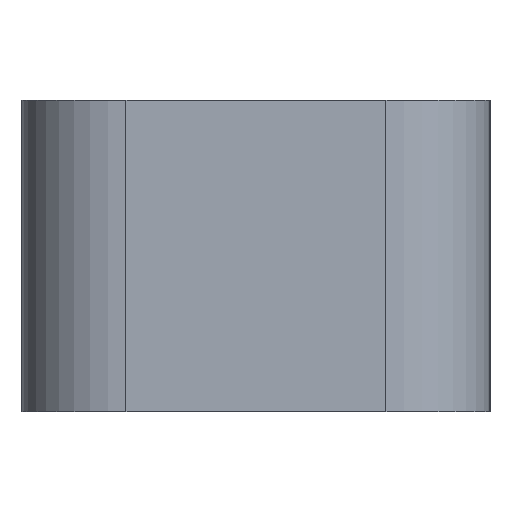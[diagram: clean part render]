
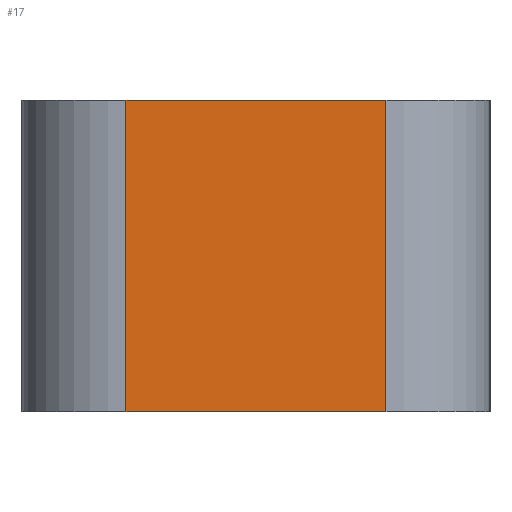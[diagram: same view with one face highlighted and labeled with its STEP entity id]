
A CAD part, left-side view. The second image highlights one B-rep face of the part: STEP entity #17.
In plain terms, the highlighted planar face has unit normal (-1, 0, 0).
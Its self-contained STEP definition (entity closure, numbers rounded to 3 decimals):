
#17 = ADVANCED_FACE('',(#18),#32,.F.);
#18 = FACE_BOUND('',#19,.F.);
#19 = EDGE_LOOP('',(#20,#55,#83,#111));
#20 = ORIENTED_EDGE('',*,*,#21,.F.);
#21 = EDGE_CURVE('',#22,#24,#26,.T.);
#22 = VERTEX_POINT('',#23);
#23 = CARTESIAN_POINT('',(-80.,-5.,12.));
#24 = VERTEX_POINT('',#25);
#25 = CARTESIAN_POINT('',(-80.,5.,12.));
#26 = SURFACE_CURVE('',#27,(#31,#43),.PCURVE_S1.);
#27 = LINE('',#28,#29);
#28 = CARTESIAN_POINT('',(-80.,-9.,12.));
#29 = VECTOR('',#30,1.);
#30 = DIRECTION('',(0.,1.,0.));
#31 = PCURVE('',#32,#37);
#32 = PLANE('',#33);
#33 = AXIS2_PLACEMENT_3D('',#34,#35,#36);
#34 = CARTESIAN_POINT('',(-80.,-9.,0.));
#35 = DIRECTION('',(1.,0.,0.));
#36 = DIRECTION('',(0.,0.,1.));
#37 = DEFINITIONAL_REPRESENTATION('',(#38),#42);
#38 = LINE('',#39,#40);
#39 = CARTESIAN_POINT('',(12.,0.));
#40 = VECTOR('',#41,1.);
#41 = DIRECTION('',(0.,-1.));
#42 = ( GEOMETRIC_REPRESENTATION_CONTEXT(2) 
PARAMETRIC_REPRESENTATION_CONTEXT() REPRESENTATION_CONTEXT('2D SPACE',''
  ) );
#43 = PCURVE('',#44,#49);
#44 = PLANE('',#45);
#45 = AXIS2_PLACEMENT_3D('',#46,#47,#48);
#46 = CARTESIAN_POINT('',(-80.,-9.,12.));
#47 = DIRECTION('',(0.,0.,1.));
#48 = DIRECTION('',(1.,0.,0.));
#49 = DEFINITIONAL_REPRESENTATION('',(#50),#54);
#50 = LINE('',#51,#52);
#51 = CARTESIAN_POINT('',(0.,0.));
#52 = VECTOR('',#53,1.);
#53 = DIRECTION('',(0.,1.));
#54 = ( GEOMETRIC_REPRESENTATION_CONTEXT(2) 
PARAMETRIC_REPRESENTATION_CONTEXT() REPRESENTATION_CONTEXT('2D SPACE',''
  ) );
#55 = ORIENTED_EDGE('',*,*,#56,.F.);
#56 = EDGE_CURVE('',#57,#22,#59,.T.);
#57 = VERTEX_POINT('',#58);
#58 = CARTESIAN_POINT('',(-80.,-5.,0.));
#59 = SURFACE_CURVE('',#60,(#64,#71),.PCURVE_S1.);
#60 = LINE('',#61,#62);
#61 = CARTESIAN_POINT('',(-80.,-5.,0.));
#62 = VECTOR('',#63,1.);
#63 = DIRECTION('',(0.,0.,1.));
#64 = PCURVE('',#32,#65);
#65 = DEFINITIONAL_REPRESENTATION('',(#66),#70);
#66 = LINE('',#67,#68);
#67 = CARTESIAN_POINT('',(0.,-4.));
#68 = VECTOR('',#69,1.);
#69 = DIRECTION('',(1.,0.));
#70 = ( GEOMETRIC_REPRESENTATION_CONTEXT(2) 
PARAMETRIC_REPRESENTATION_CONTEXT() REPRESENTATION_CONTEXT('2D SPACE',''
  ) );
#71 = PCURVE('',#72,#77);
#72 = CYLINDRICAL_SURFACE('',#73,4.);
#73 = AXIS2_PLACEMENT_3D('',#74,#75,#76);
#74 = CARTESIAN_POINT('',(-76.,-5.,0.));
#75 = DIRECTION('',(0.,0.,1.));
#76 = DIRECTION('',(-1.,-0.,0.));
#77 = DEFINITIONAL_REPRESENTATION('',(#78),#82);
#78 = LINE('',#79,#80);
#79 = CARTESIAN_POINT('',(0.,0.));
#80 = VECTOR('',#81,1.);
#81 = DIRECTION('',(0.,1.));
#82 = ( GEOMETRIC_REPRESENTATION_CONTEXT(2) 
PARAMETRIC_REPRESENTATION_CONTEXT() REPRESENTATION_CONTEXT('2D SPACE',''
  ) );
#83 = ORIENTED_EDGE('',*,*,#84,.T.);
#84 = EDGE_CURVE('',#57,#85,#87,.T.);
#85 = VERTEX_POINT('',#86);
#86 = CARTESIAN_POINT('',(-80.,5.,0.));
#87 = SURFACE_CURVE('',#88,(#92,#99),.PCURVE_S1.);
#88 = LINE('',#89,#90);
#89 = CARTESIAN_POINT('',(-80.,-9.,0.));
#90 = VECTOR('',#91,1.);
#91 = DIRECTION('',(0.,1.,0.));
#92 = PCURVE('',#32,#93);
#93 = DEFINITIONAL_REPRESENTATION('',(#94),#98);
#94 = LINE('',#95,#96);
#95 = CARTESIAN_POINT('',(0.,0.));
#96 = VECTOR('',#97,1.);
#97 = DIRECTION('',(0.,-1.));
#98 = ( GEOMETRIC_REPRESENTATION_CONTEXT(2) 
PARAMETRIC_REPRESENTATION_CONTEXT() REPRESENTATION_CONTEXT('2D SPACE',''
  ) );
#99 = PCURVE('',#100,#105);
#100 = PLANE('',#101);
#101 = AXIS2_PLACEMENT_3D('',#102,#103,#104);
#102 = CARTESIAN_POINT('',(-80.,-9.,0.));
#103 = DIRECTION('',(0.,0.,1.));
#104 = DIRECTION('',(1.,0.,0.));
#105 = DEFINITIONAL_REPRESENTATION('',(#106),#110);
#106 = LINE('',#107,#108);
#107 = CARTESIAN_POINT('',(0.,0.));
#108 = VECTOR('',#109,1.);
#109 = DIRECTION('',(0.,1.));
#110 = ( GEOMETRIC_REPRESENTATION_CONTEXT(2) 
PARAMETRIC_REPRESENTATION_CONTEXT() REPRESENTATION_CONTEXT('2D SPACE',''
  ) );
#111 = ORIENTED_EDGE('',*,*,#112,.T.);
#112 = EDGE_CURVE('',#85,#24,#113,.T.);
#113 = SURFACE_CURVE('',#114,(#118,#125),.PCURVE_S1.);
#114 = LINE('',#115,#116);
#115 = CARTESIAN_POINT('',(-80.,5.,0.));
#116 = VECTOR('',#117,1.);
#117 = DIRECTION('',(0.,0.,1.));
#118 = PCURVE('',#32,#119);
#119 = DEFINITIONAL_REPRESENTATION('',(#120),#124);
#120 = LINE('',#121,#122);
#121 = CARTESIAN_POINT('',(0.,-14.));
#122 = VECTOR('',#123,1.);
#123 = DIRECTION('',(1.,0.));
#124 = ( GEOMETRIC_REPRESENTATION_CONTEXT(2) 
PARAMETRIC_REPRESENTATION_CONTEXT() REPRESENTATION_CONTEXT('2D SPACE',''
  ) );
#125 = PCURVE('',#126,#131);
#126 = CYLINDRICAL_SURFACE('',#127,4.);
#127 = AXIS2_PLACEMENT_3D('',#128,#129,#130);
#128 = CARTESIAN_POINT('',(-76.,5.,0.));
#129 = DIRECTION('',(0.,0.,1.));
#130 = DIRECTION('',(-1.,-0.,0.));
#131 = DEFINITIONAL_REPRESENTATION('',(#132),#136);
#132 = LINE('',#133,#134);
#133 = CARTESIAN_POINT('',(-0.,0.));
#134 = VECTOR('',#135,1.);
#135 = DIRECTION('',(-0.,1.));
#136 = ( GEOMETRIC_REPRESENTATION_CONTEXT(2) 
PARAMETRIC_REPRESENTATION_CONTEXT() REPRESENTATION_CONTEXT('2D SPACE',''
  ) );
